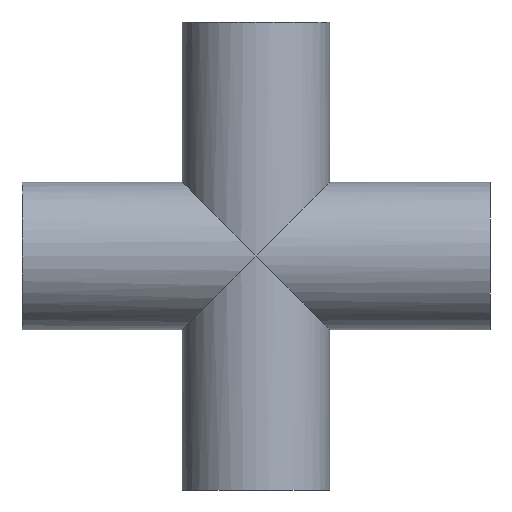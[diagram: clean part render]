
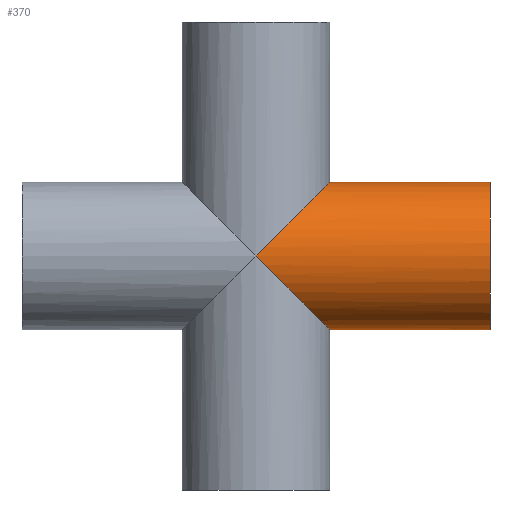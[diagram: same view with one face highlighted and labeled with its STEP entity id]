
A CAD part, front view. The second image highlights one B-rep face of the part: STEP entity #370.
In plain terms, the highlighted cylindrical face has radius 19.05 mm (diameter 38.1 mm), a partial arc.
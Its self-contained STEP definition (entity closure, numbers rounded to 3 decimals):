
#20 = DIRECTION ( 'NONE',  ( 1., 0., 0. ) ) ;
#33 = EDGE_CURVE ( 'NONE', #428, #218, #586, .T. ) ;
#71 = ORIENTED_EDGE ( 'NONE', *, *, #256, .T. ) ;
#84 = CARTESIAN_POINT ( 'NONE',  ( 0., -19.05, 0. ) ) ;
#101 = ORIENTED_EDGE ( 'NONE', *, *, #476, .T. ) ;
#183 = CYLINDRICAL_SURFACE ( 'NONE', #430, 19.05 ) ;
#185 = AXIS2_PLACEMENT_3D ( 'NONE', #623, #452, #591 ) ;
#188 = CARTESIAN_POINT ( 'NONE',  ( 0., -19.05, 0. ) ) ;
#189 = VECTOR ( 'NONE', #20, 1000. ) ;
#218 = VERTEX_POINT ( 'NONE', #441 ) ;
#231 = FACE_OUTER_BOUND ( 'NONE', #555, .T. ) ;
#238 = CARTESIAN_POINT ( 'NONE',  ( 19.05, 0., -19.05 ) ) ;
#239 = EDGE_CURVE ( 'NONE', #461, #218, #482, .T. ) ;
#244 = CARTESIAN_POINT ( 'NONE',  ( 60.325, 0., -19.05 ) ) ;
#256 = EDGE_CURVE ( 'NONE', #351, #595, #633, .T. ) ;
#267 = CARTESIAN_POINT ( 'NONE',  ( 19.05, 0., 19.05 ) ) ;
#280 = CARTESIAN_POINT ( 'NONE',  ( 60.325, 0., 19.05 ) ) ;
#292 = EDGE_CURVE ( 'NONE', #428, #595, #524, .T. ) ;
#338 = CARTESIAN_POINT ( 'NONE',  ( 11.159, -19.05, 11.159 ) ) ;
#351 = VERTEX_POINT ( 'NONE', #244 ) ;
#367 = DIRECTION ( 'NONE',  ( 1., 0., 0. ) ) ;
#370 = ADVANCED_FACE ( 'NONE', ( #231 ), #183, .T. ) ;
#379 = VECTOR ( 'NONE', #515, 1000. ) ;
#409 = CARTESIAN_POINT ( 'NONE',  ( -60.325, 0., -19.05 ) ) ;
#412 = CARTESIAN_POINT ( 'NONE',  ( 19.05, 0., 19.05 ) ) ;
#417 = CARTESIAN_POINT ( 'NONE',  ( -60.325, 0., 19.05 ) ) ;
#428 = VERTEX_POINT ( 'NONE', #412 ) ;
#430 = AXIS2_PLACEMENT_3D ( 'NONE', #588, #367, #620 ) ;
#441 = CARTESIAN_POINT ( 'NONE',  ( 0., -19.05, 0. ) ) ;
#452 = DIRECTION ( 'NONE',  ( -1., 0., 0. ) ) ;
#461 = VERTEX_POINT ( 'NONE', #470 ) ;
#470 = CARTESIAN_POINT ( 'NONE',  ( 19.05, 0., -19.05 ) ) ;
#476 = EDGE_CURVE ( 'NONE', #461, #351, #486, .T. ) ;
#482 =( BOUNDED_CURVE ( )  B_SPLINE_CURVE ( 3, ( #238, #567, #551, #188 ),
 .UNSPECIFIED., .F., .F. ) 
 B_SPLINE_CURVE_WITH_KNOTS ( ( 4, 4 ),
 ( 0., 1.571 ),
 .UNSPECIFIED. ) 
 CURVE ( )  GEOMETRIC_REPRESENTATION_ITEM ( )  RATIONAL_B_SPLINE_CURVE ( ( 1., 0.805, 0.805, 1. ) ) 
 REPRESENTATION_ITEM ( '' )  );
#486 = LINE ( 'NONE', #409, #189 ) ;
#495 = ORIENTED_EDGE ( 'NONE', *, *, #239, .F. ) ;
#515 = DIRECTION ( 'NONE',  ( 1., 0., 0. ) ) ;
#519 = ORIENTED_EDGE ( 'NONE', *, *, #33, .T. ) ;
#524 = LINE ( 'NONE', #417, #379 ) ;
#541 = CARTESIAN_POINT ( 'NONE',  ( 19.05, -11.159, 19.05 ) ) ;
#551 = CARTESIAN_POINT ( 'NONE',  ( 11.159, -19.05, -11.159 ) ) ;
#555 = EDGE_LOOP ( 'NONE', ( #570, #519, #495, #101, #71 ) ) ;
#567 = CARTESIAN_POINT ( 'NONE',  ( 19.05, -11.159, -19.05 ) ) ;
#570 = ORIENTED_EDGE ( 'NONE', *, *, #292, .F. ) ;
#586 =( BOUNDED_CURVE ( )  B_SPLINE_CURVE ( 3, ( #267, #541, #338, #84 ),
 .UNSPECIFIED., .F., .T. ) 
 B_SPLINE_CURVE_WITH_KNOTS ( ( 4, 4 ),
 ( 0., 1.571 ),
 .UNSPECIFIED. ) 
 CURVE ( )  GEOMETRIC_REPRESENTATION_ITEM ( )  RATIONAL_B_SPLINE_CURVE ( ( 1., 0.805, 0.805, 1. ) ) 
 REPRESENTATION_ITEM ( '' )  );
#588 = CARTESIAN_POINT ( 'NONE',  ( -60.325, 0., 0. ) ) ;
#591 = DIRECTION ( 'NONE',  ( 0., 0., -1. ) ) ;
#595 = VERTEX_POINT ( 'NONE', #280 ) ;
#620 = DIRECTION ( 'NONE',  ( 0., 0., -1. ) ) ;
#623 = CARTESIAN_POINT ( 'NONE',  ( 60.325, 0., 0. ) ) ;
#633 = CIRCLE ( 'NONE', #185, 19.05 ) ;
